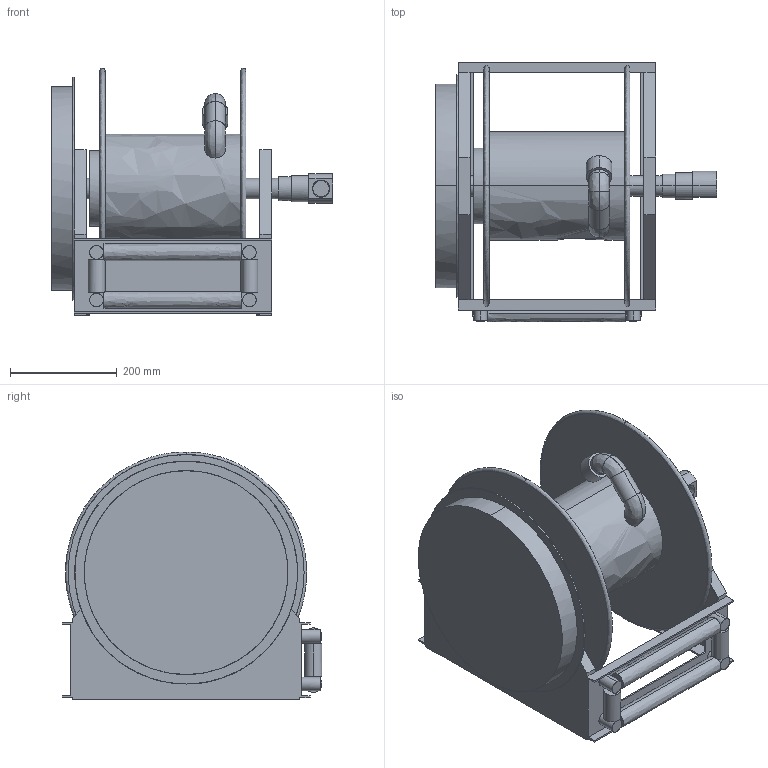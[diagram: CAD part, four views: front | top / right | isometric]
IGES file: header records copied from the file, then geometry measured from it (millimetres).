
Start section: Comment
Global section: file name: SD14005 OXP.igs; native system:  By UGS Corp.; preprocessor: XPlus GENERIC/IGES 3.0; author: Author; organization: Title; date: 20120802.092051; units: millimetre
Bounding box: 525.7 x 485.64 x 463.54 mm (x, y, z)
Surface area: 1819346.1 mm2 (no closed solid volume)
Topology: 0 solids, 0 shells, 155 faces, 756 edges, 756 vertices
Faces by surface type: bspline 155
